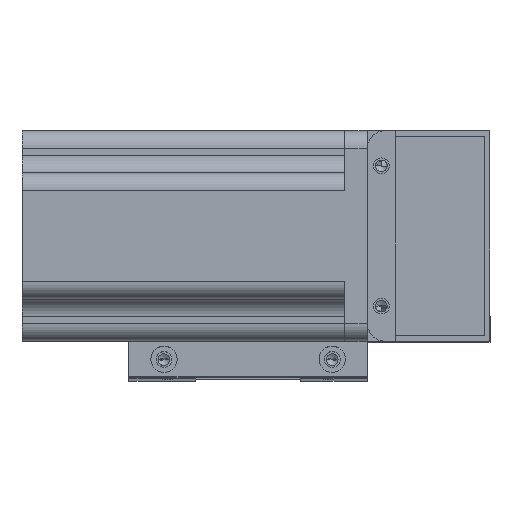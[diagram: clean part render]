
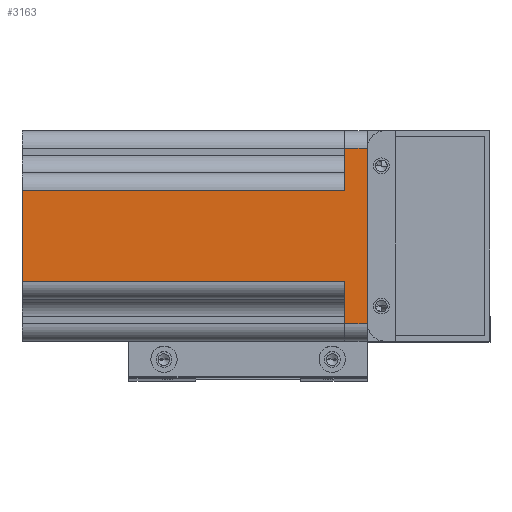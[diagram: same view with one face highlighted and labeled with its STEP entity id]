
A CAD part, top view. The second image highlights one B-rep face of the part: STEP entity #3163.
In plain terms, the highlighted planar face has unit normal (0, 0, 1) as drawn and (0, 1, 0) by its records, which use the part's own axes.
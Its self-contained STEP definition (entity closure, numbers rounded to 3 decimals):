
#201 = VERTEX_POINT ( 'NONE', #11541 ) ;
#329 = CARTESIAN_POINT ( 'NONE',  ( -18., 30., -92. ) ) ;
#498 = DIRECTION ( 'NONE',  ( 0., 0., -1. ) ) ;
#634 = VECTOR ( 'NONE', #17487, 1000. ) ;
#1660 = DIRECTION ( 'NONE',  ( 0., 0., -1. ) ) ;
#1913 = CARTESIAN_POINT ( 'NONE',  ( 25., 30., 6.5 ) ) ;
#2156 = EDGE_CURVE ( 'NONE', #17236, #6556, #22724, .T. ) ;
#2158 = EDGE_CURVE ( 'NONE', #201, #17653, #10952, .T. ) ;
#3163 = ADVANCED_FACE ( 'NONE', ( #19681 ), #15554, .F. ) ;
#3197 = VECTOR ( 'NONE', #22924, 1000. ) ;
#3335 = EDGE_LOOP ( 'NONE', ( #18926, #15464, #10125, #20035, #23650, #19916, #9470, #5391 ) ) ;
#3806 = CARTESIAN_POINT ( 'NONE',  ( -25., 30., 0. ) ) ;
#4556 = VECTOR ( 'NONE', #4852, 1000. ) ;
#4808 = EDGE_CURVE ( 'NONE', #6118, #6556, #20503, .T. ) ;
#4852 = DIRECTION ( 'NONE',  ( -1., 0., 0. ) ) ;
#5391 = ORIENTED_EDGE ( 'NONE', *, *, #16461, .T. ) ;
#5774 = EDGE_CURVE ( 'NONE', #11740, #17236, #21569, .T. ) ;
#5922 = LINE ( 'NONE', #12975, #22542 ) ;
#5992 = AXIS2_PLACEMENT_3D ( 'NONE', #23324, #7534, #15476 ) ;
#6118 = VERTEX_POINT ( 'NONE', #12168 ) ;
#6556 = VERTEX_POINT ( 'NONE', #15350 ) ;
#7045 = DIRECTION ( 'NONE',  ( 0., 0., -1. ) ) ;
#7534 = DIRECTION ( 'NONE',  ( 0., -1., 0. ) ) ;
#8172 = EDGE_CURVE ( 'NONE', #18471, #16092, #18157, .T. ) ;
#8648 = CARTESIAN_POINT ( 'NONE',  ( -25., 30., 0. ) ) ;
#8736 = DIRECTION ( 'NONE',  ( -1., 0., 0. ) ) ;
#8918 = CARTESIAN_POINT ( 'NONE',  ( 25., 30., 0. ) ) ;
#9308 = CARTESIAN_POINT ( 'NONE',  ( -25., 30., 6.5 ) ) ;
#9433 = VECTOR ( 'NONE', #1660, 1000. ) ;
#9470 = ORIENTED_EDGE ( 'NONE', *, *, #8172, .F. ) ;
#10125 = ORIENTED_EDGE ( 'NONE', *, *, #4808, .F. ) ;
#10952 = LINE ( 'NONE', #3806, #634 ) ;
#11541 = CARTESIAN_POINT ( 'NONE',  ( -13., 30., 0. ) ) ;
#11738 = CARTESIAN_POINT ( 'NONE',  ( -25., 30., 6.5 ) ) ;
#11740 = VERTEX_POINT ( 'NONE', #8918 ) ;
#11758 = EDGE_CURVE ( 'NONE', #6118, #201, #18302, .T. ) ;
#12014 = DIRECTION ( 'NONE',  ( 1., 0., 0. ) ) ;
#12168 = CARTESIAN_POINT ( 'NONE',  ( -13., 30., -92. ) ) ;
#12376 = CARTESIAN_POINT ( 'NONE',  ( -25., 30., 6.5 ) ) ;
#12975 = CARTESIAN_POINT ( 'NONE',  ( 25., 30., 6.5 ) ) ;
#15350 = CARTESIAN_POINT ( 'NONE',  ( 13., 30., -92. ) ) ;
#15464 = ORIENTED_EDGE ( 'NONE', *, *, #2156, .T. ) ;
#15476 = DIRECTION ( 'NONE',  ( 0., 0., -1. ) ) ;
#15554 = PLANE ( 'NONE',  #5992 ) ;
#16092 = VERTEX_POINT ( 'NONE', #11738 ) ;
#16146 = VECTOR ( 'NONE', #8736, 1000. ) ;
#16461 = EDGE_CURVE ( 'NONE', #18471, #11740, #5922, .T. ) ;
#17236 = VERTEX_POINT ( 'NONE', #17924 ) ;
#17326 = CARTESIAN_POINT ( 'NONE',  ( 13., 30., 6.5 ) ) ;
#17487 = DIRECTION ( 'NONE',  ( -1., 0., 0. ) ) ;
#17653 = VERTEX_POINT ( 'NONE', #20773 ) ;
#17924 = CARTESIAN_POINT ( 'NONE',  ( 13., 30., 0. ) ) ;
#18157 = LINE ( 'NONE', #12376, #4556 ) ;
#18302 = LINE ( 'NONE', #24379, #3197 ) ;
#18471 = VERTEX_POINT ( 'NONE', #1913 ) ;
#18475 = VECTOR ( 'NONE', #498, 1000. ) ;
#18926 = ORIENTED_EDGE ( 'NONE', *, *, #5774, .T. ) ;
#19681 = FACE_OUTER_BOUND ( 'NONE', #3335, .T. ) ;
#19916 = ORIENTED_EDGE ( 'NONE', *, *, #20052, .F. ) ;
#20035 = ORIENTED_EDGE ( 'NONE', *, *, #11758, .T. ) ;
#20052 = EDGE_CURVE ( 'NONE', #16092, #17653, #23612, .T. ) ;
#20503 = LINE ( 'NONE', #329, #24401 ) ;
#20773 = CARTESIAN_POINT ( 'NONE',  ( -25., 30., 0. ) ) ;
#21569 = LINE ( 'NONE', #8648, #16146 ) ;
#22542 = VECTOR ( 'NONE', #7045, 1000. ) ;
#22724 = LINE ( 'NONE', #17326, #9433 ) ;
#22924 = DIRECTION ( 'NONE',  ( 0., 0., 1. ) ) ;
#23324 = CARTESIAN_POINT ( 'NONE',  ( -25., 30., 6.5 ) ) ;
#23612 = LINE ( 'NONE', #9308, #18475 ) ;
#23650 = ORIENTED_EDGE ( 'NONE', *, *, #2158, .T. ) ;
#24379 = CARTESIAN_POINT ( 'NONE',  ( -13., 30., 6.5 ) ) ;
#24401 = VECTOR ( 'NONE', #12014, 1000. ) ;
